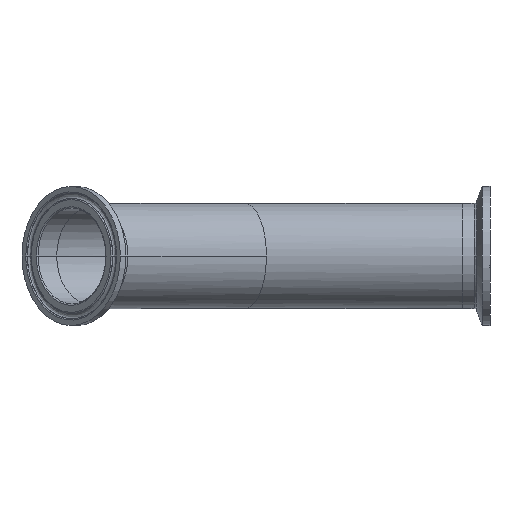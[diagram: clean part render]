
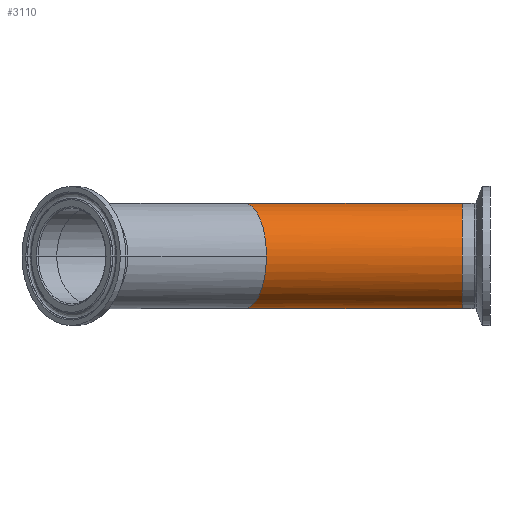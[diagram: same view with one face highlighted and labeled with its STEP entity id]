
A CAD part, left-side view. The second image highlights one B-rep face of the part: STEP entity #3110.
In plain terms, the highlighted cylindrical face has radius 19.05 mm (diameter 38.1 mm), a partial arc.
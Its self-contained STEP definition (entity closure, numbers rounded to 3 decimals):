
#5 = ORIENTED_EDGE ( 'NONE', *, *, #1900, .T. ) ;
#117 = ORIENTED_EDGE ( 'NONE', *, *, #1986, .F. ) ;
#328 = VERTEX_POINT ( 'NONE', #2463 ) ;
#443 = CARTESIAN_POINT ( 'NONE',  ( 0., 0., -19.05 ) ) ;
#481 =( BOUNDED_CURVE ( )  B_SPLINE_CURVE ( 3, ( #942, #594, #1291, #3728 ),
 .UNSPECIFIED., .F., .T. ) 
 B_SPLINE_CURVE_WITH_KNOTS ( ( 4, 4 ),
 ( 0., 1.571 ),
 .UNSPECIFIED. ) 
 CURVE ( )  GEOMETRIC_REPRESENTATION_ITEM ( )  RATIONAL_B_SPLINE_CURVE ( ( 1., 0.805, 0.805, 1. ) ) 
 REPRESENTATION_ITEM ( '' )  );
#533 = LINE ( 'NONE', #1201, #1332 ) ;
#594 = CARTESIAN_POINT ( 'NONE',  ( -19.05, -7.891, -11.159 ) ) ;
#622 = VERTEX_POINT ( 'NONE', #1081 ) ;
#692 = CARTESIAN_POINT ( 'NONE',  ( -11.159, -4.622, 19.05 ) ) ;
#905 = VERTEX_POINT ( 'NONE', #3692 ) ;
#942 = CARTESIAN_POINT ( 'NONE',  ( -19.05, -7.891, 0. ) ) ;
#989 = CARTESIAN_POINT ( 'NONE',  ( 0., -78.9, -19.05 ) ) ;
#1081 = CARTESIAN_POINT ( 'NONE',  ( 0., -78.9, 19.05 ) ) ;
#1201 = CARTESIAN_POINT ( 'NONE',  ( 0., -78.9, 19.05 ) ) ;
#1210 = DIRECTION ( 'NONE',  ( 0., 1., 0. ) ) ;
#1256 = DIRECTION ( 'NONE',  ( 0., 0., 1. ) ) ;
#1291 = CARTESIAN_POINT ( 'NONE',  ( -11.159, -4.622, -19.05 ) ) ;
#1332 = VECTOR ( 'NONE', #1908, 1000. ) ;
#1562 = CARTESIAN_POINT ( 'NONE',  ( 0., -78.9, -19.05 ) ) ;
#1618 = DIRECTION ( 'NONE',  ( 0., 1., 0. ) ) ;
#1724 = CYLINDRICAL_SURFACE ( 'NONE', #3485, 19.05 ) ;
#1744 = EDGE_CURVE ( 'NONE', #622, #905, #533, .T. ) ;
#1800 = AXIS2_PLACEMENT_3D ( 'NONE', #3292, #1210, #3649 ) ;
#1832 = FACE_OUTER_BOUND ( 'NONE', #2410, .T. ) ;
#1853 = CARTESIAN_POINT ( 'NONE',  ( -19.05, -7.891, 0. ) ) ;
#1900 = EDGE_CURVE ( 'NONE', #2642, #622, #2169, .T. ) ;
#1908 = DIRECTION ( 'NONE',  ( 0., 1., 0. ) ) ;
#1986 = EDGE_CURVE ( 'NONE', #2642, #2863, #3415, .T. ) ;
#2094 = ORIENTED_EDGE ( 'NONE', *, *, #4086, .T. ) ;
#2169 = CIRCLE ( 'NONE', #1800, 19.05 ) ;
#2410 = EDGE_LOOP ( 'NONE', ( #117, #5, #2633, #2094, #3435 ) ) ;
#2463 = CARTESIAN_POINT ( 'NONE',  ( -19.05, -7.891, 0. ) ) ;
#2505 = VECTOR ( 'NONE', #3664, 1000. ) ;
#2633 = ORIENTED_EDGE ( 'NONE', *, *, #1744, .T. ) ;
#2642 = VERTEX_POINT ( 'NONE', #989 ) ;
#2863 = VERTEX_POINT ( 'NONE', #443 ) ;
#2912 =( BOUNDED_CURVE ( )  B_SPLINE_CURVE ( 3, ( #3459, #692, #3952, #1853 ),
 .UNSPECIFIED., .F., .T. ) 
 B_SPLINE_CURVE_WITH_KNOTS ( ( 4, 4 ),
 ( 4.712, 6.283 ),
 .UNSPECIFIED. ) 
 CURVE ( )  GEOMETRIC_REPRESENTATION_ITEM ( )  RATIONAL_B_SPLINE_CURVE ( ( 1., 0.805, 0.805, 1. ) ) 
 REPRESENTATION_ITEM ( '' )  );
#3110 = ADVANCED_FACE ( 'NONE', ( #1832 ), #1724, .T. ) ;
#3292 = CARTESIAN_POINT ( 'NONE',  ( 0., -78.9, 0. ) ) ;
#3415 = LINE ( 'NONE', #1562, #2505 ) ;
#3435 = ORIENTED_EDGE ( 'NONE', *, *, #4312, .T. ) ;
#3459 = CARTESIAN_POINT ( 'NONE',  ( 0., 0., 19.05 ) ) ;
#3485 = AXIS2_PLACEMENT_3D ( 'NONE', #3696, #1618, #1256 ) ;
#3649 = DIRECTION ( 'NONE',  ( 0., 0., 1. ) ) ;
#3664 = DIRECTION ( 'NONE',  ( 0., 1., 0. ) ) ;
#3692 = CARTESIAN_POINT ( 'NONE',  ( 0., 0., 19.05 ) ) ;
#3696 = CARTESIAN_POINT ( 'NONE',  ( 0., -78.9, 0. ) ) ;
#3728 = CARTESIAN_POINT ( 'NONE',  ( 0., 0., -19.05 ) ) ;
#3952 = CARTESIAN_POINT ( 'NONE',  ( -19.05, -7.891, 11.159 ) ) ;
#4086 = EDGE_CURVE ( 'NONE', #905, #328, #2912, .T. ) ;
#4312 = EDGE_CURVE ( 'NONE', #328, #2863, #481, .T. ) ;
